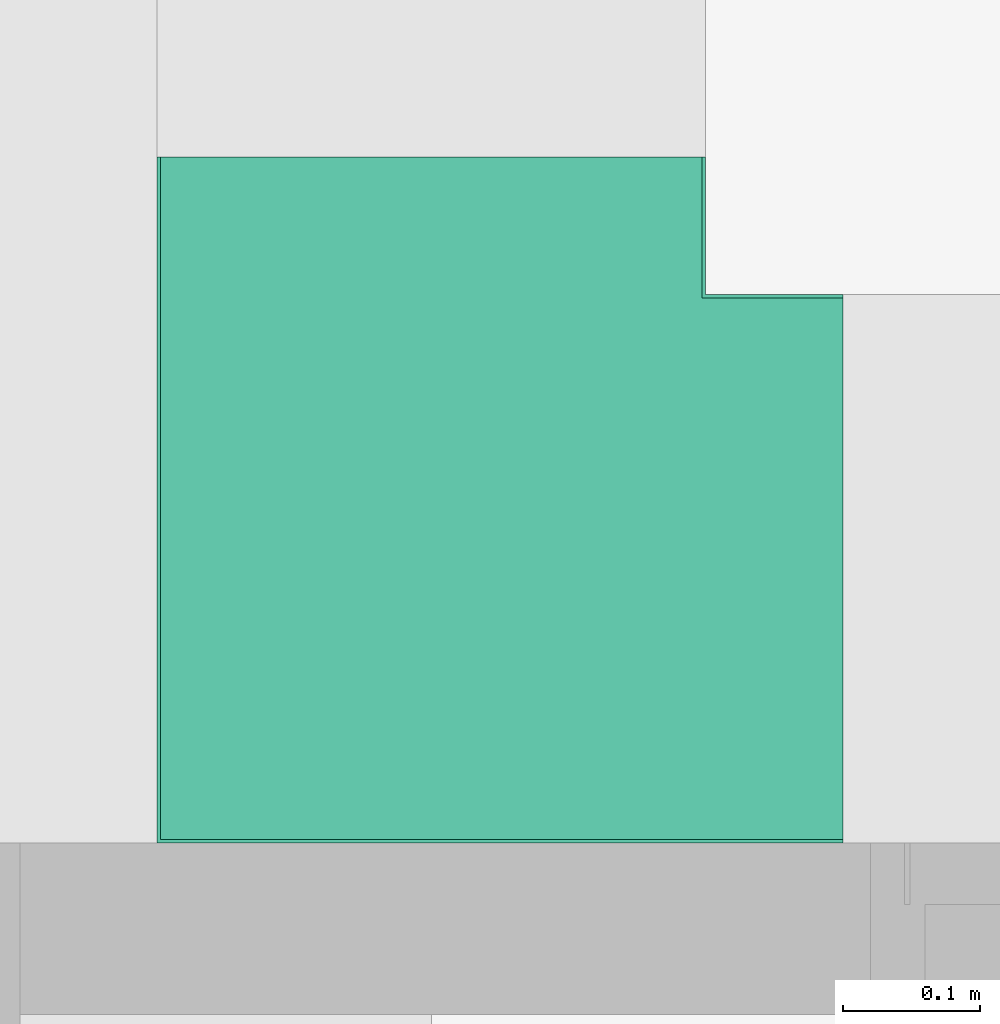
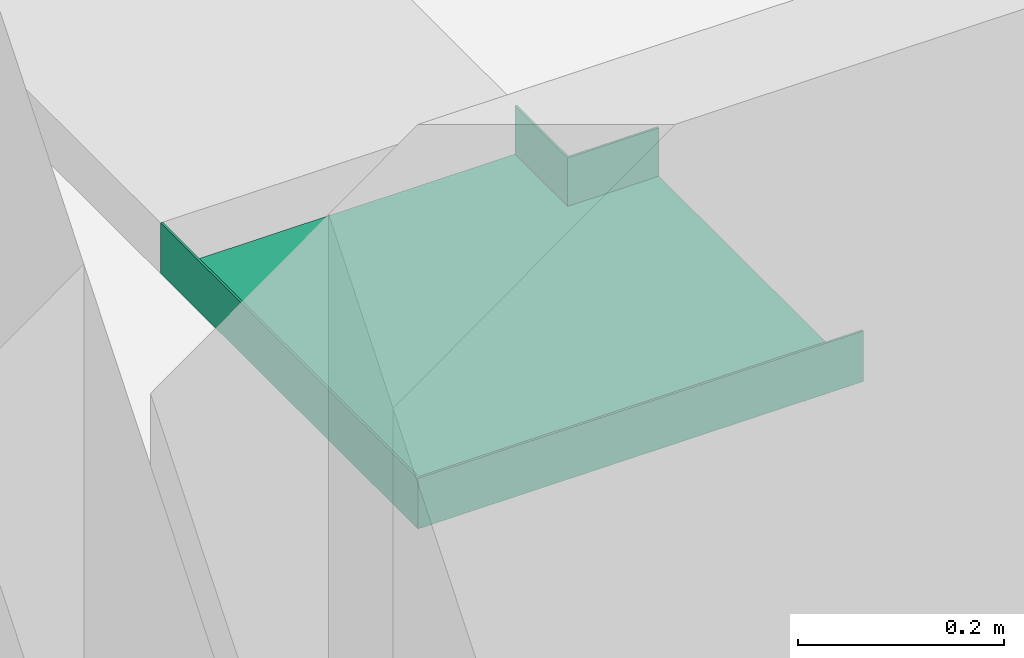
# One storey, part 259 of 302: 1 flow fitting.
"""IFC2X3 building model written with IfcOpenShell, lengths in metres."""

from ifc_helpers import new_model, entity, si_unit, converted_unit, derived_unit, direction, frame, origin, place, context, subcontext, project, spatial, faceted_brep, source, transform, mapped, material, type_object, type_shapes, element, save


model = new_model("IFC2X3")

# Units and contexts
model_context = context("Model", 3, precision=1e-05, world=origin(), true_north=direction((6.12303176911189e-17, 1.0)))
body_context = subcontext(model_context, "Body", "Model", "MODEL_VIEW")
ifc_project = project(units=[si_unit("LENGTHUNIT", "METRE"), si_unit("AREAUNIT", "SQUARE_METRE"), si_unit("VOLUMEUNIT", "CUBIC_METRE"), converted_unit("PLANEANGLEUNIT", "DEGREE", entity("IfcRatioMeasure", 0.0174532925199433), si_unit("PLANEANGLEUNIT", "RADIAN"), dimensions=[0, 0, 0, 0, 0, 0, 0]), si_unit("MASSUNIT", "GRAM", prefix="KILO"), derived_unit("MASSDENSITYUNIT", [(si_unit("MASSUNIT", "GRAM", prefix="KILO"), 1), (si_unit("LENGTHUNIT", "METRE"), -3)]), derived_unit("MOMENTOFINERTIAUNIT", [(si_unit("LENGTHUNIT", "METRE"), 4)]), si_unit("TIMEUNIT", "SECOND"), si_unit("FREQUENCYUNIT", "HERTZ"), si_unit("THERMODYNAMICTEMPERATUREUNIT", "DEGREE_CELSIUS"), derived_unit("THERMALTRANSMITTANCEUNIT", [(si_unit("MASSUNIT", "GRAM", prefix="KILO"), 1), (si_unit("THERMODYNAMICTEMPERATUREUNIT", "KELVIN"), -1), (si_unit("TIMEUNIT", "SECOND"), -3)]), derived_unit("VOLUMETRICFLOWRATEUNIT", [(si_unit("LENGTHUNIT", "METRE"), 3), (si_unit("TIMEUNIT", "SECOND"), -1)]), si_unit("ELECTRICCURRENTUNIT", "AMPERE"), si_unit("ELECTRICVOLTAGEUNIT", "VOLT"), si_unit("POWERUNIT", "WATT"), si_unit("FORCEUNIT", "NEWTON", prefix="KILO"), si_unit("ILLUMINANCEUNIT", "LUX"), si_unit("LUMINOUSFLUXUNIT", "LUMEN"), si_unit("LUMINOUSINTENSITYUNIT", "CANDELA"), derived_unit("USERDEFINED", [(si_unit("MASSUNIT", "GRAM", prefix="KILO"), -1), (si_unit("LENGTHUNIT", "METRE"), -2), (si_unit("TIMEUNIT", "SECOND"), 3), (si_unit("LUMINOUSFLUXUNIT", "LUMEN"), 1)]), derived_unit("LINEARVELOCITYUNIT", [(si_unit("LENGTHUNIT", "METRE"), 1), (si_unit("TIMEUNIT", "SECOND"), -1)]), si_unit("PRESSUREUNIT", "PASCAL"), derived_unit("USERDEFINED", [(si_unit("LENGTHUNIT", "METRE"), -2), (si_unit("MASSUNIT", "GRAM", prefix="KILO"), 1), (si_unit("TIMEUNIT", "SECOND"), -2)]), derived_unit("LINEARFORCEUNIT", [(si_unit("MASSUNIT", "GRAM", prefix="KILO"), 1), (si_unit("LENGTHUNIT", "METRE"), 1), (si_unit("TIMEUNIT", "SECOND"), -2), (si_unit("LENGTHUNIT", "METRE"), -1)]), derived_unit("PLANARFORCEUNIT", [(si_unit("MASSUNIT", "GRAM", prefix="KILO"), 1), (si_unit("LENGTHUNIT", "METRE"), 1), (si_unit("TIMEUNIT", "SECOND"), -2), (si_unit("LENGTHUNIT", "METRE"), -2)])], contexts=[model_context])

# Site, building, storey
site_placement = place(None, origin())
site = spatial("IfcSite", under=ifc_project, at=site_placement, Name="Default", CompositionType="ELEMENT")
building_placement = place(site_placement, origin())
building = spatial("IfcBuilding", under=site, at=building_placement, CompositionType="ELEMENT")
storey_placement = place(building_placement, frame((0.0, 0.0, -1.3)))
storey = spatial("IfcBuildingStorey", under=building, at=storey_placement, Name="00_EG", CompositionType="ELEMENT", Elevation=-1.3)

# Flow fitting
ifc_material = material(Name="<Unnamed>")
cable_carrier_fitting_type = type_object("IfcCableCarrierFittingType", Name="Kabeltrasse - Bogen (Ecke) reduzierend:Standard", PredefinedType="NOTDEFINED", material=ifc_material)
shared_shape = source(origin(), body_context, "Body", "Brep", [
    faceted_brep([(-0.299999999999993, -0.200000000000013, -0.0300000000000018), (-0.299999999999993, -0.200000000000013, 0.0299999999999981), (-0.299999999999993, -0.197460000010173, 0.0299999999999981), (-0.299999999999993, -0.197460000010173, -0.0274600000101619), (-0.299999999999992, 0.197460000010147, -0.0274600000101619), (-0.299999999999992, 0.197460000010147, 0.0299999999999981), (-0.299999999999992, 0.199999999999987, 0.0299999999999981), (-0.299999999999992, 0.199999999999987, -0.0300000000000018), (0.200000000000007, 0.299999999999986, -0.0300000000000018), (-0.199999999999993, 0.299999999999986, -0.0300000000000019), (-0.199999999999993, 0.299999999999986, 0.0299999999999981), (-0.197460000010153, 0.299999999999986, 0.0299999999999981), (-0.197460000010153, 0.299999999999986, -0.0274600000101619), (0.197460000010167, 0.299999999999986, -0.0274600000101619), (0.197460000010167, 0.299999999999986, 0.0299999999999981), (0.200000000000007, 0.299999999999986, 0.0299999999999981), (0.200000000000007, -0.200000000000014, -0.0300000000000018), (0.200000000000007, -0.200000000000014, 0.0299999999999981), (0.197460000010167, -0.197460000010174, 0.0299999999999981), (0.197460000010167, -0.197460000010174, -0.0274600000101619), (-0.197460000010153, 0.197460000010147, -0.0274600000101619), (-0.197460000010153, 0.197460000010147, 0.0299999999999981), (-0.199999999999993, 0.199999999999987, 0.0299999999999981), (-0.199999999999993, 0.199999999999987, -0.0300000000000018)], [[[0, 1, 2, 3, 4, 5, 6, 7]], [[8, 9, 10, 11, 12, 13, 14, 15]], [[1, 0, 16, 17]], [[2, 1, 17, 15, 14, 18]], [[3, 2, 18, 19]], [[4, 3, 19, 13, 12, 20]], [[5, 4, 20, 21]], [[6, 5, 21, 11, 10, 22]], [[7, 6, 22, 23]], [[0, 7, 23, 9, 8, 16]], [[17, 16, 8, 15]], [[19, 18, 14, 13]], [[21, 20, 12, 11]], [[23, 22, 10, 9]]]),
])
type_shapes(cable_carrier_fitting_type, [shared_shape])
flow_fitting_placement = place(storey_placement, frame((-266.160111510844, 25.9230889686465, 4.85), z_axis=(0.0, 0.0, 1.0), x_axis=(0.0, -1.0, 0.0)))
element("IfcFlowFitting", 1, at=flow_fitting_placement, inside=storey, type_object=cable_carrier_fitting_type, material=ifc_material, Name="Kabeltrasse - Bogen (Ecke) reduzierend:Standard", ObjectType="Kabeltrasse - Bogen (Ecke) reduzierend:Standard", context=body_context, shape_type="MappedRepresentation", body=[
    mapped(shared_shape, transform((0.0, 0.0, 0.0), scale=1.0)),
])

save(model, "model.ifc")
